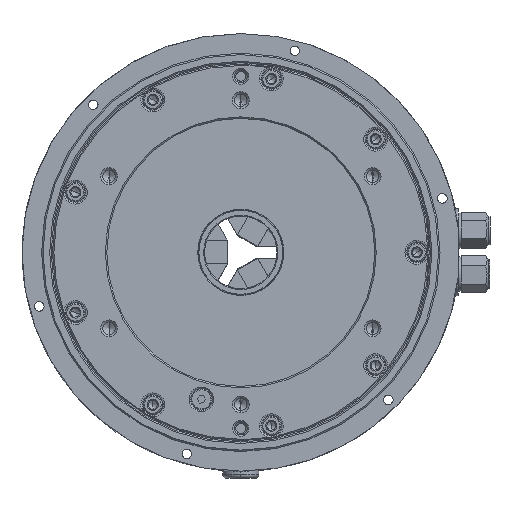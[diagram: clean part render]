
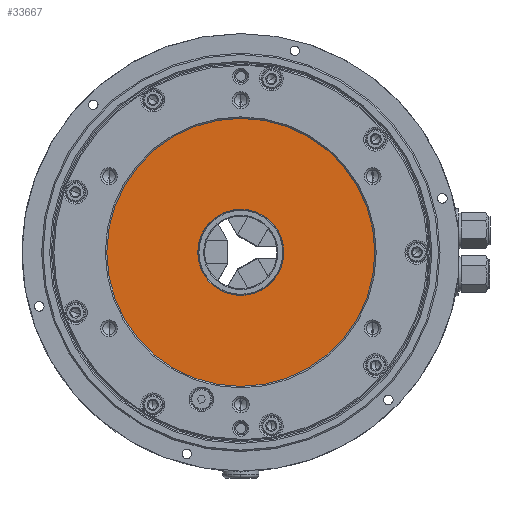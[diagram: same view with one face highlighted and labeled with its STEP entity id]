
A CAD part, left-side view. The second image highlights one B-rep face of the part: STEP entity #33667.
In plain terms, the highlighted planar face has unit normal (-1, 0, 0).
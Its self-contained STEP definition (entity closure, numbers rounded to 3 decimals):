
#2362 = EDGE_LOOP ( 'NONE', ( #133815, #59017 ) ) ;
#14215 = AXIS2_PLACEMENT_3D ( 'NONE', #114896, #29935, #72720 ) ;
#14604 = EDGE_CURVE ( 'NONE', #72648, #33431, #50123, .T. ) ;
#18486 = DIRECTION ( 'NONE',  ( 1., 0., 0. ) ) ;
#22234 = PLANE ( 'NONE',  #102376 ) ;
#24317 = FACE_BOUND ( 'NONE', #52821, .T. ) ;
#25871 = CARTESIAN_POINT ( 'NONE',  ( -133., 0., 92.5 ) ) ;
#29204 = DIRECTION ( 'NONE',  ( 0., 0., -1. ) ) ;
#29303 = AXIS2_PLACEMENT_3D ( 'NONE', #91522, #18486, #81658 ) ;
#29780 = EDGE_CURVE ( 'NONE', #33431, #72648, #99479, .T. ) ;
#29935 = DIRECTION ( 'NONE',  ( 1., 0., 0. ) ) ;
#33431 = VERTEX_POINT ( 'NONE', #25871 ) ;
#33667 = ADVANCED_FACE ( 'NONE', ( #24317, #55911 ), #22234, .T. ) ;
#39754 = DIRECTION ( 'NONE',  ( 1., 0., 0. ) ) ;
#46538 = AXIS2_PLACEMENT_3D ( 'NONE', #63556, #39754, #29204 ) ;
#47950 = VERTEX_POINT ( 'NONE', #112000 ) ;
#50123 = CIRCLE ( 'NONE', #14215, 92.5 ) ;
#52821 = EDGE_LOOP ( 'NONE', ( #117872, #106526 ) ) ;
#55911 = FACE_OUTER_BOUND ( 'NONE', #2362, .T. ) ;
#57559 = CARTESIAN_POINT ( 'NONE',  ( -133., 0., -29.7 ) ) ;
#59017 = ORIENTED_EDGE ( 'NONE', *, *, #29780, .F. ) ;
#63556 = CARTESIAN_POINT ( 'NONE',  ( -133., 0., 0. ) ) ;
#65060 = DIRECTION ( 'NONE',  ( 0., 0., 1. ) ) ;
#71352 = EDGE_CURVE ( 'NONE', #138033, #47950, #123420, .T. ) ;
#72648 = VERTEX_POINT ( 'NONE', #98462 ) ;
#72720 = DIRECTION ( 'NONE',  ( 0., 0., -1. ) ) ;
#74243 = DIRECTION ( 'NONE',  ( 1., 0., 0. ) ) ;
#77505 = CARTESIAN_POINT ( 'NONE',  ( -133., 0., 0. ) ) ;
#81658 = DIRECTION ( 'NONE',  ( 0., 0., -1. ) ) ;
#91522 = CARTESIAN_POINT ( 'NONE',  ( -133., 0., 0. ) ) ;
#97328 = CARTESIAN_POINT ( 'NONE',  ( -133., 92.5, 0. ) ) ;
#98462 = CARTESIAN_POINT ( 'NONE',  ( -133., 0., -92.5 ) ) ;
#99421 = DIRECTION ( 'NONE',  ( -1., 0., 0. ) ) ;
#99479 = CIRCLE ( 'NONE', #128550, 92.5 ) ;
#102376 = AXIS2_PLACEMENT_3D ( 'NONE', #97328, #99421, #65060 ) ;
#102561 = CIRCLE ( 'NONE', #46538, 29.7 ) ;
#106526 = ORIENTED_EDGE ( 'NONE', *, *, #116634, .T. ) ;
#106552 = DIRECTION ( 'NONE',  ( 0., 0., -1. ) ) ;
#112000 = CARTESIAN_POINT ( 'NONE',  ( -133., 0., 29.7 ) ) ;
#114896 = CARTESIAN_POINT ( 'NONE',  ( -133., 0., 0. ) ) ;
#116634 = EDGE_CURVE ( 'NONE', #47950, #138033, #102561, .T. ) ;
#117872 = ORIENTED_EDGE ( 'NONE', *, *, #71352, .T. ) ;
#123420 = CIRCLE ( 'NONE', #29303, 29.7 ) ;
#128550 = AXIS2_PLACEMENT_3D ( 'NONE', #77505, #74243, #106552 ) ;
#133815 = ORIENTED_EDGE ( 'NONE', *, *, #14604, .F. ) ;
#138033 = VERTEX_POINT ( 'NONE', #57559 ) ;
